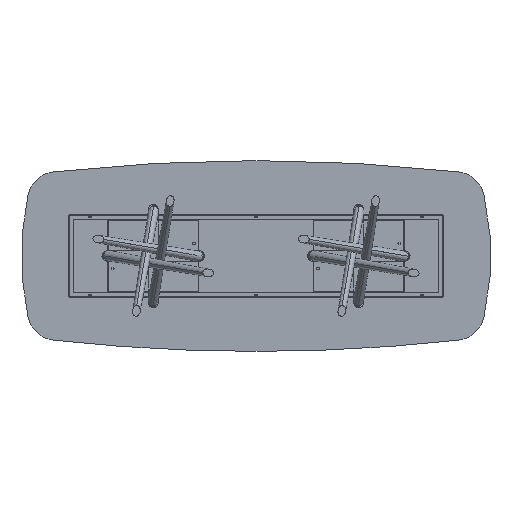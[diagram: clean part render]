
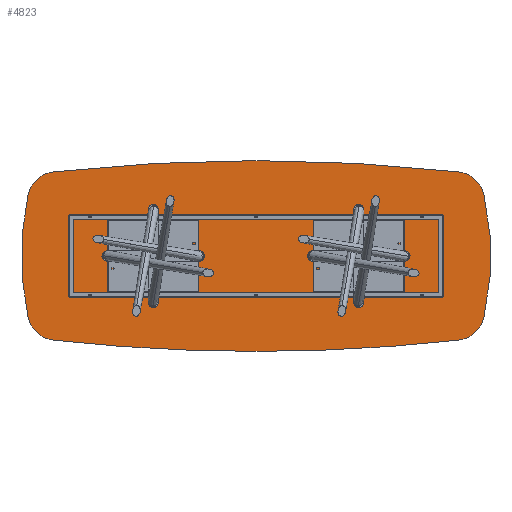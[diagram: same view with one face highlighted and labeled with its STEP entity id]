
A CAD part, front view. The second image highlights one B-rep face of the part: STEP entity #4823.
In plain terms, the highlighted planar face has unit normal (0, -1, 0).
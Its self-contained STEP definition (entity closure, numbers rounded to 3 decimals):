
#85 = CARTESIAN_POINT ( 'NONE',  ( -1358.173, 0., 374.785 ) ) ;
#218 = CIRCLE ( 'NONE', #13598, 1900. ) ;
#280 = CIRCLE ( 'NONE', #5734, 1900. ) ;
#1134 = VERTEX_POINT ( 'NONE', #3822 ) ;
#1488 = AXIS2_PLACEMENT_3D ( 'NONE', #13067, #9434, #4770 ) ;
#1497 = AXIS2_PLACEMENT_3D ( 'NONE', #14911, #4276, #4348 ) ;
#1515 = CIRCLE ( 'NONE', #11672, 12500. ) ;
#1915 = AXIS2_PLACEMENT_3D ( 'NONE', #11599, #11914, #7113 ) ;
#2055 = CARTESIAN_POINT ( 'NONE',  ( 300., 0., 0. ) ) ;
#2309 = VERTEX_POINT ( 'NONE', #8294 ) ;
#2312 = CARTESIAN_POINT ( 'NONE',  ( 0., 0., -11850. ) ) ;
#2469 = CIRCLE ( 'NONE', #1488, 200. ) ;
#2485 = AXIS2_PLACEMENT_3D ( 'NONE', #85, #5839, #10491 ) ;
#2780 = CIRCLE ( 'NONE', #10224, 200. ) ;
#2934 = EDGE_CURVE ( 'NONE', #7727, #6360, #218, .T. ) ;
#2944 = CARTESIAN_POINT ( 'NONE',  ( 1380.257, 0., -573.562 ) ) ;
#3028 = VERTEX_POINT ( 'NONE', #3269 ) ;
#3100 = VERTEX_POINT ( 'NONE', #10038 ) ;
#3269 = CARTESIAN_POINT ( 'NONE',  ( -1553.252, 0., 418.877 ) ) ;
#3399 = VERTEX_POINT ( 'NONE', #2944 ) ;
#3822 = CARTESIAN_POINT ( 'NONE',  ( -1380.257, 0., 573.562 ) ) ;
#4066 = EDGE_CURVE ( 'NONE', #3399, #6360, #2469, .T. ) ;
#4276 = DIRECTION ( 'NONE',  ( 0., 1., 0. ) ) ;
#4348 = DIRECTION ( 'NONE',  ( 0., 0., 1. ) ) ;
#4657 = ORIENTED_EDGE ( 'NONE', *, *, #11233, .T. ) ;
#4741 = VERTEX_POINT ( 'NONE', #7393 ) ;
#4770 = DIRECTION ( 'NONE',  ( 0., 0., 1. ) ) ;
#4823 = ADVANCED_FACE ( 'NONE', ( #14989 ), #13581, .F. ) ;
#5047 = CARTESIAN_POINT ( 'NONE',  ( 1380.257, 0., 573.562 ) ) ;
#5662 = DIRECTION ( 'NONE',  ( 0., 0., 1. ) ) ;
#5734 = AXIS2_PLACEMENT_3D ( 'NONE', #2055, #10282, #7099 ) ;
#5839 = DIRECTION ( 'NONE',  ( 0., -1., 0. ) ) ;
#5966 = EDGE_CURVE ( 'NONE', #3399, #2309, #1515, .T. ) ;
#6170 = DIRECTION ( 'NONE',  ( 0., 1., 0. ) ) ;
#6360 = VERTEX_POINT ( 'NONE', #12544 ) ;
#6839 = CARTESIAN_POINT ( 'NONE',  ( 0., 0., 11850. ) ) ;
#6929 = EDGE_CURVE ( 'NONE', #3100, #4741, #2780, .T. ) ;
#7099 = DIRECTION ( 'NONE',  ( 0., 0., 1. ) ) ;
#7113 = DIRECTION ( 'NONE',  ( 0., 0., 1. ) ) ;
#7393 = CARTESIAN_POINT ( 'NONE',  ( -1380.257, 0., -573.562 ) ) ;
#7423 = VERTEX_POINT ( 'NONE', #5047 ) ;
#7457 = CARTESIAN_POINT ( 'NONE',  ( 1358.173, 0., 374.785 ) ) ;
#7727 = VERTEX_POINT ( 'NONE', #13086 ) ;
#7853 = ORIENTED_EDGE ( 'NONE', *, *, #14139, .T. ) ;
#8294 = CARTESIAN_POINT ( 'NONE',  ( 0., 0., -650. ) ) ;
#8451 = DIRECTION ( 'NONE',  ( 0., 0., 1. ) ) ;
#8767 = ORIENTED_EDGE ( 'NONE', *, *, #9063, .F. ) ;
#9063 = EDGE_CURVE ( 'NONE', #1134, #7423, #9076, .T. ) ;
#9076 = CIRCLE ( 'NONE', #12283, 12500. ) ;
#9431 = DIRECTION ( 'NONE',  ( 0., 0., 1. ) ) ;
#9434 = DIRECTION ( 'NONE',  ( 0., -1., 0. ) ) ;
#9808 = ORIENTED_EDGE ( 'NONE', *, *, #6929, .T. ) ;
#10038 = CARTESIAN_POINT ( 'NONE',  ( -1553.252, 0., -418.877 ) ) ;
#10078 = ORIENTED_EDGE ( 'NONE', *, *, #5966, .F. ) ;
#10224 = AXIS2_PLACEMENT_3D ( 'NONE', #15252, #11588, #9431 ) ;
#10282 = DIRECTION ( 'NONE',  ( 0., 1., 0. ) ) ;
#10491 = DIRECTION ( 'NONE',  ( 0., 0., 1. ) ) ;
#11233 = EDGE_CURVE ( 'NONE', #7727, #7423, #14312, .T. ) ;
#11263 = ORIENTED_EDGE ( 'NONE', *, *, #4066, .T. ) ;
#11588 = DIRECTION ( 'NONE',  ( 0., -1., 0. ) ) ;
#11599 = CARTESIAN_POINT ( 'NONE',  ( 0., 0., 11850. ) ) ;
#11672 = AXIS2_PLACEMENT_3D ( 'NONE', #6839, #14820, #5662 ) ;
#11819 = EDGE_CURVE ( 'NONE', #2309, #4741, #14055, .T. ) ;
#11914 = DIRECTION ( 'NONE',  ( 0., 1., 0. ) ) ;
#12160 = CIRCLE ( 'NONE', #2485, 200. ) ;
#12186 = DIRECTION ( 'NONE',  ( 0., 0., 1. ) ) ;
#12283 = AXIS2_PLACEMENT_3D ( 'NONE', #2312, #13089, #8451 ) ;
#12351 = CARTESIAN_POINT ( 'NONE',  ( -300., 0., 0. ) ) ;
#12544 = CARTESIAN_POINT ( 'NONE',  ( 1553.252, 0., -418.877 ) ) ;
#13067 = CARTESIAN_POINT ( 'NONE',  ( 1358.173, 0., -374.785 ) ) ;
#13086 = CARTESIAN_POINT ( 'NONE',  ( 1553.252, 0., 418.877 ) ) ;
#13089 = DIRECTION ( 'NONE',  ( 0., 1., 0. ) ) ;
#13564 = AXIS2_PLACEMENT_3D ( 'NONE', #7457, #14512, #12186 ) ;
#13576 = ORIENTED_EDGE ( 'NONE', *, *, #15248, .F. ) ;
#13581 = PLANE ( 'NONE',  #1497 ) ;
#13598 = AXIS2_PLACEMENT_3D ( 'NONE', #12351, #6170, #14386 ) ;
#13927 = ORIENTED_EDGE ( 'NONE', *, *, #11819, .F. ) ;
#14055 = CIRCLE ( 'NONE', #1915, 12500. ) ;
#14139 = EDGE_CURVE ( 'NONE', #1134, #3028, #12160, .T. ) ;
#14253 = ORIENTED_EDGE ( 'NONE', *, *, #2934, .F. ) ;
#14312 = CIRCLE ( 'NONE', #13564, 200. ) ;
#14386 = DIRECTION ( 'NONE',  ( 0., 0., 1. ) ) ;
#14512 = DIRECTION ( 'NONE',  ( 0., -1., 0. ) ) ;
#14560 = EDGE_LOOP ( 'NONE', ( #8767, #7853, #13576, #9808, #13927, #10078, #11263, #14253, #4657 ) ) ;
#14820 = DIRECTION ( 'NONE',  ( 0., 1., 0. ) ) ;
#14911 = CARTESIAN_POINT ( 'NONE',  ( -150., 0., 5925. ) ) ;
#14989 = FACE_OUTER_BOUND ( 'NONE', #14560, .T. ) ;
#15248 = EDGE_CURVE ( 'NONE', #3100, #3028, #280, .T. ) ;
#15252 = CARTESIAN_POINT ( 'NONE',  ( -1358.173, 0., -374.785 ) ) ;
